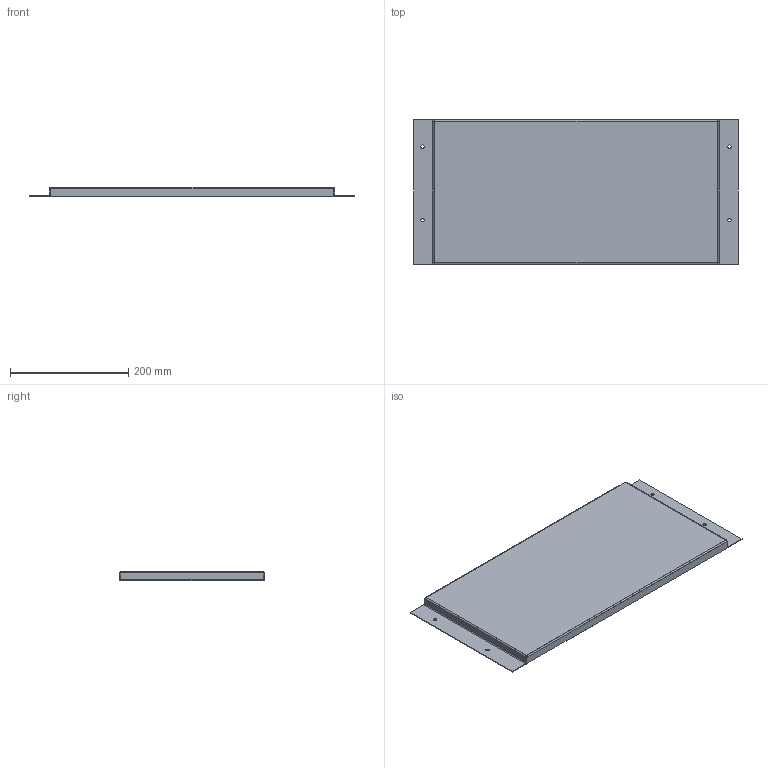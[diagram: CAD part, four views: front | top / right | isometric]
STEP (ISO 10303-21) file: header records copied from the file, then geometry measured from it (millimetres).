
FILE_DESCRIPTION (( 'STEP AP203' ), '1' );
FILE_NAME ('MB 25.55 Ïàíåëü ìîäóëüíàÿ.STEP', '2012-12-05T08:01:35', ( 'Àëåêñàíäð' ), ( 'Ïðîâåíòî' ), 'SwSTEP 2.0', 'SolidWorks 2012', '' );
FILE_SCHEMA (( 'CONFIG_CONTROL_DESIGN' ));
Length unit declared in the file: millimetre
Products named in the file (1): MB 25.55 Ïàíåëü ìîäóëüíàÿ
Bounding box: 550.6 x 245 x 15.6 mm (x, y, z)
Volume: 184991.7 mm3; surface area: 310471.7 mm2
Topology: 1 solids, 1 shells, 70 faces, 156 edges, 88 vertices
Faces by surface type: plane 50, cylinder 20
Entity records: 1969 total; most frequent: DIRECTION 338, CARTESIAN_POINT 315, ORIENTED_EDGE 312, EDGE_CURVE 156, LINE 116, VECTOR 116, AXIS2_PLACEMENT_3D 111, VERTEX_POINT 88
